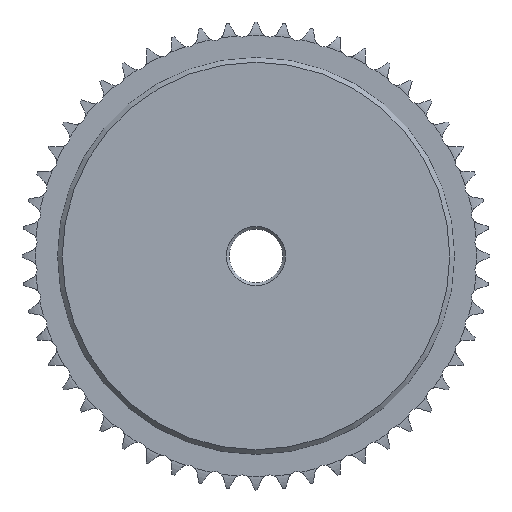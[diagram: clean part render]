
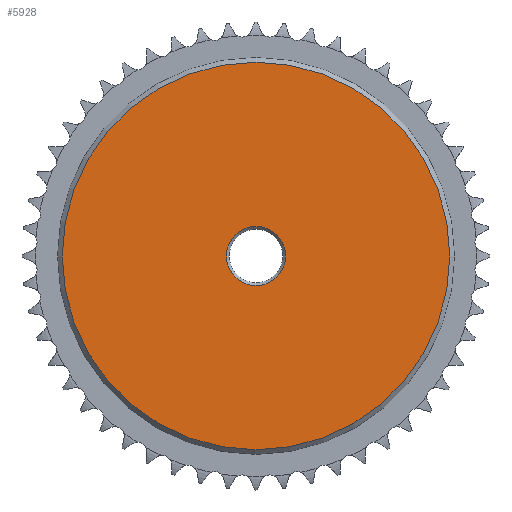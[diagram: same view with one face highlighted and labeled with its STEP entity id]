
A CAD part, left-side view. The second image highlights one B-rep face of the part: STEP entity #5928.
In plain terms, the highlighted planar face has unit normal (-1, 0, 0).
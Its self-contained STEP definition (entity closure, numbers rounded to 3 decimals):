
#129=FACE_BOUND('',#780,.T.);
#134=PLANE('',#6568);
#452=FACE_OUTER_BOUND('',#779,.T.);
#779=EDGE_LOOP('',(#5284));
#780=EDGE_LOOP('',(#5285));
#1103=CIRCLE('',#6567,5.35);
#1104=CIRCLE('',#6569,35.15);
#2568=VERTEX_POINT('',#12066);
#2569=VERTEX_POINT('',#12069);
#3511=EDGE_CURVE('',#2568,#2568,#1103,.T.);
#3512=EDGE_CURVE('',#2569,#2569,#1104,.T.);
#5284=ORIENTED_EDGE('',*,*,#3512,.F.);
#5285=ORIENTED_EDGE('',*,*,#3511,.T.);
#5928=ADVANCED_FACE('',(#452,#129),#134,.T.);
#6567=AXIS2_PLACEMENT_3D('',#12067,#8050,#8051);
#6568=AXIS2_PLACEMENT_3D('',#12068,#8052,#8053);
#6569=AXIS2_PLACEMENT_3D('',#12070,#8054,#8055);
#8050=DIRECTION('center_axis',(1.,0.,0.));
#8051=DIRECTION('ref_axis',(0.,0.,-1.));
#8052=DIRECTION('center_axis',(-1.,0.,0.));
#8053=DIRECTION('ref_axis',(0.,0.,1.));
#8054=DIRECTION('center_axis',(1.,0.,0.));
#8055=DIRECTION('ref_axis',(0.,0.,-1.));
#12066=CARTESIAN_POINT('',(0.257,-4.912,0.));
#12067=CARTESIAN_POINT('Origin',(0.257,-10.262,0.));
#12068=CARTESIAN_POINT('Origin',(0.257,24.888,0.));
#12069=CARTESIAN_POINT('',(0.257,24.888,0.));
#12070=CARTESIAN_POINT('Origin',(0.257,-10.262,0.));
